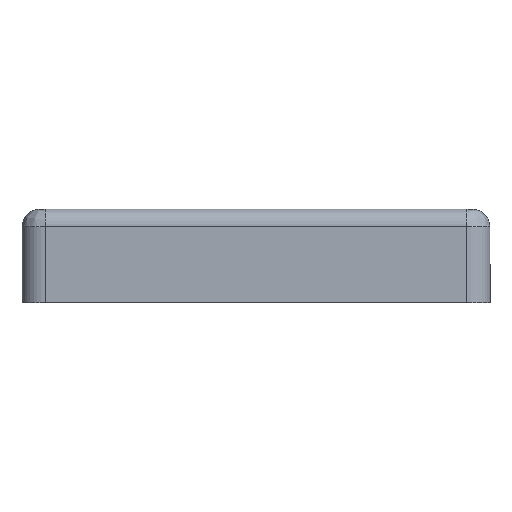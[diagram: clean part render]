
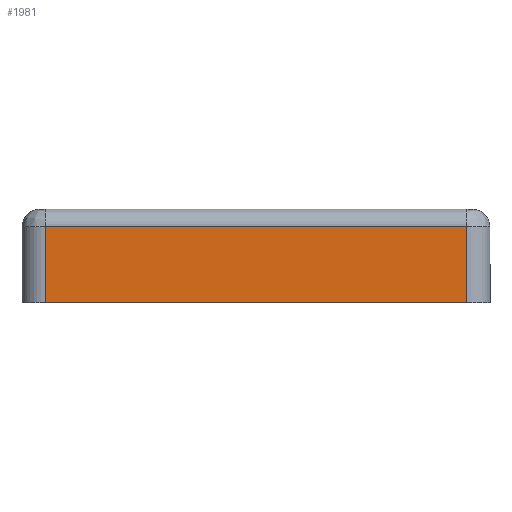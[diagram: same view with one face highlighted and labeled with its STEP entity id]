
A CAD part, front view. The second image highlights one B-rep face of the part: STEP entity #1981.
In plain terms, the highlighted planar face has unit normal (0, -1, 0).
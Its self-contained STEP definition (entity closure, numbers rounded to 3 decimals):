
#136 = CARTESIAN_POINT ( 'NONE',  ( -36., -40., 16. ) ) ;
#270 = CARTESIAN_POINT ( 'NONE',  ( 36., -40., 0. ) ) ;
#382 = LINE ( 'NONE', #6154, #4523 ) ;
#626 = AXIS2_PLACEMENT_3D ( 'NONE', #9343, #3176, #8600 ) ;
#655 = DIRECTION ( 'NONE',  ( -1., 0., 0. ) ) ;
#1607 = VECTOR ( 'NONE', #655, 1000. ) ;
#1795 = VERTEX_POINT ( 'NONE', #2913 ) ;
#1875 = EDGE_CURVE ( 'NONE', #9359, #1795, #382, .T. ) ;
#1981 = ADVANCED_FACE ( 'NONE', ( #3572 ), #7806, .F. ) ;
#2198 = CARTESIAN_POINT ( 'NONE',  ( 40., -40., 0. ) ) ;
#2302 = VECTOR ( 'NONE', #3023, 1000. ) ;
#2913 = CARTESIAN_POINT ( 'NONE',  ( 36., -40., 13. ) ) ;
#3023 = DIRECTION ( 'NONE',  ( 0., 0., -1. ) ) ;
#3176 = DIRECTION ( 'NONE',  ( 0., 1., 0. ) ) ;
#3572 = FACE_OUTER_BOUND ( 'NONE', #8105, .T. ) ;
#3696 = LINE ( 'NONE', #2198, #1607 ) ;
#3722 = CARTESIAN_POINT ( 'NONE',  ( -36., -40., 0. ) ) ;
#3912 = LINE ( 'NONE', #136, #8033 ) ;
#4377 = LINE ( 'NONE', #5318, #2302 ) ;
#4523 = VECTOR ( 'NONE', #6937, 1000. ) ;
#4631 = ORIENTED_EDGE ( 'NONE', *, *, #9425, .F. ) ;
#5060 = ORIENTED_EDGE ( 'NONE', *, *, #1875, .F. ) ;
#5318 = CARTESIAN_POINT ( 'NONE',  ( 36., -40., 16. ) ) ;
#5580 = DIRECTION ( 'NONE',  ( 0., 0., 1. ) ) ;
#5812 = VERTEX_POINT ( 'NONE', #270 ) ;
#6154 = CARTESIAN_POINT ( 'NONE',  ( -40., -40., 13. ) ) ;
#6352 = ORIENTED_EDGE ( 'NONE', *, *, #7077, .F. ) ;
#6937 = DIRECTION ( 'NONE',  ( 1., 0., 0. ) ) ;
#7077 = EDGE_CURVE ( 'NONE', #5812, #7107, #3696, .T. ) ;
#7107 = VERTEX_POINT ( 'NONE', #3722 ) ;
#7806 = PLANE ( 'NONE',  #626 ) ;
#8033 = VECTOR ( 'NONE', #5580, 1000. ) ;
#8105 = EDGE_LOOP ( 'NONE', ( #5060, #4631, #6352, #9325 ) ) ;
#8418 = CARTESIAN_POINT ( 'NONE',  ( -36., -40., 13. ) ) ;
#8600 = DIRECTION ( 'NONE',  ( 0., 0., 1. ) ) ;
#9325 = ORIENTED_EDGE ( 'NONE', *, *, #9362, .F. ) ;
#9343 = CARTESIAN_POINT ( 'NONE',  ( 40., -40., 16. ) ) ;
#9359 = VERTEX_POINT ( 'NONE', #8418 ) ;
#9362 = EDGE_CURVE ( 'NONE', #1795, #5812, #4377, .T. ) ;
#9425 = EDGE_CURVE ( 'NONE', #7107, #9359, #3912, .T. ) ;
